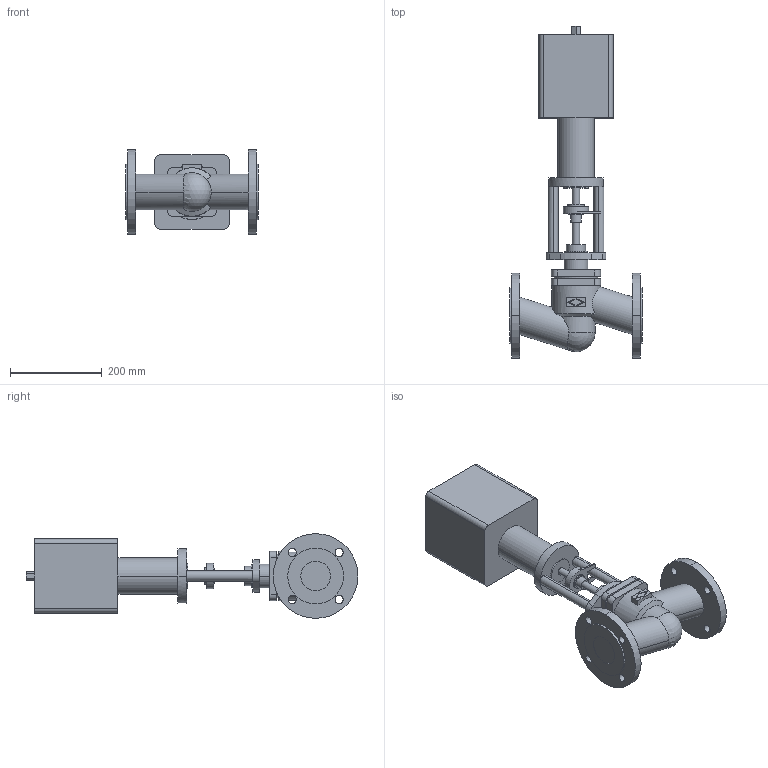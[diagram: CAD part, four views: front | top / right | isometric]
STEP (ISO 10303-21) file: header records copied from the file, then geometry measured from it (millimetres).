
FILE_DESCRIPTION( ( '' ), '1' );
FILE_NAME( 'F:/DE-SHS/TB/OR/04-Sonstiges/daten/files_3d/440-FR2.2/440-PN16-FR2_2/c000004533.stp', '2014-11-06T09:37:11', ( '' ), ( '' ), ' ', ' ', ' ' );
FILE_SCHEMA( ( 'CONFIG_CONTROL_DESIGN' ) );
Length unit declared in the file: millimetre
Products named in the file (2): 1; 2
Bounding box: 290 x 725.5 x 185 mm (x, y, z)
Volume: 9183351.3 mm3; surface area: 518421.2 mm2
Topology: 2 solids, 2 shells, 162 faces, 395 edges, 261 vertices
Faces by surface type: cylinder 82, plane 77, cone 2, sphere 1
Entity records: 5433 total; most frequent: CARTESIAN_POINT 1350, DIRECTION 883, ORIENTED_EDGE 786, EDGE_CURVE 393, AXIS2_PLACEMENT_3D 340, VERTEX_POINT 261, EDGE_LOOP 204, LINE 203
